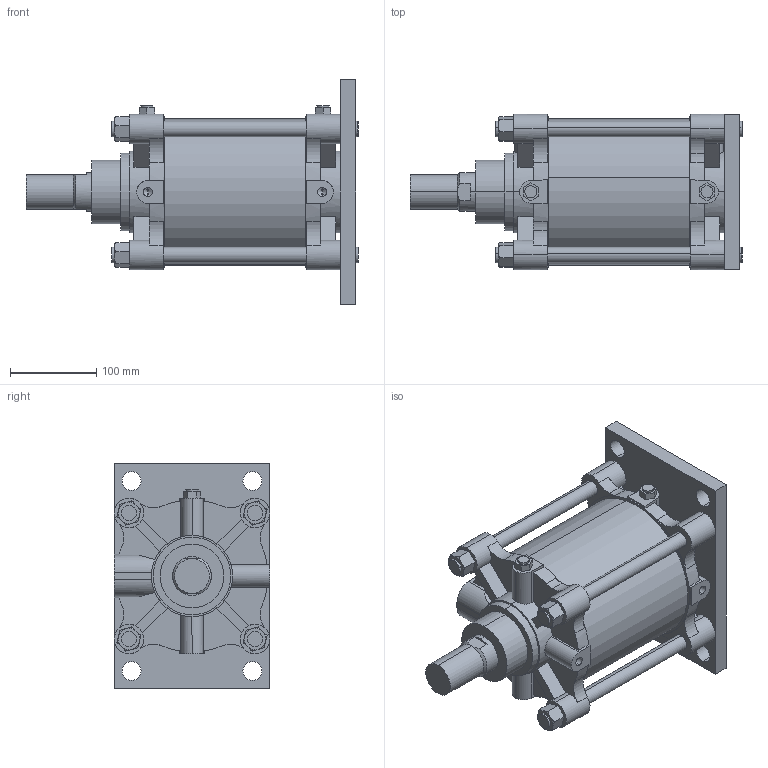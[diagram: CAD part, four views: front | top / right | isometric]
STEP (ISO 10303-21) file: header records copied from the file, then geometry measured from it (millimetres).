
FILE_DESCRIPTION (( 'STEP AP203' ), '1' );
FILE_NAME ('A##2-160#-100-B.STEP', '2016-03-31T06:55:23', ( '' ), ( '' ), 'SwSTEP 2.0', 'SolidWorks 2014', '' );
FILE_SCHEMA (( 'CONFIG_CONTROL_DESIGN' ));
Length unit declared in the file: millimetre
Products named in the file (7): A160-AB; A##2-160#-100-B; A160-100; A160-B; A160-A
Assembly tree (12 placements, depth 2):
  A##2-160#-100-B
    A160-B
    A160-100
    A160-A
    (unnamed)  x4
    (unnamed)  x4
    A160-AB
Bounding box: 384.5 x 180 x 260 mm (x, y, z)
Volume: 6615903.5 mm3; surface area: 558775.9 mm2
Topology: 12 solids, 14 shells, 344 faces, 888 edges, 572 vertices
Faces by surface type: plane 172, cylinder 134, torus 24, cone 14
Entity records: 10347 total; most frequent: CARTESIAN_POINT 2123, DIRECTION 1622, ORIENTED_EDGE 1500, EDGE_CURVE 750, AXIS2_PLACEMENT_3D 627, VERTEX_POINT 494, LINE 368, VECTOR 368
